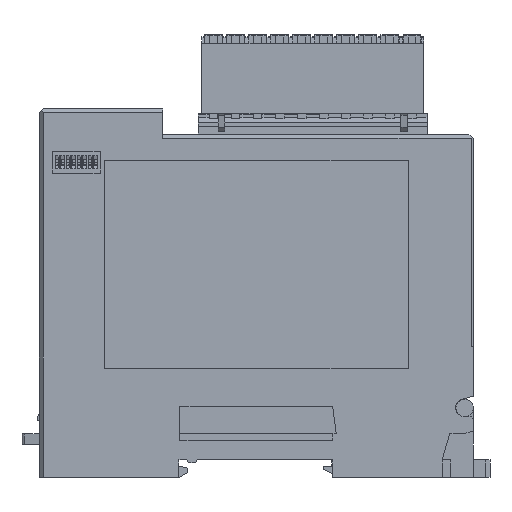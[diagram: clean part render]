
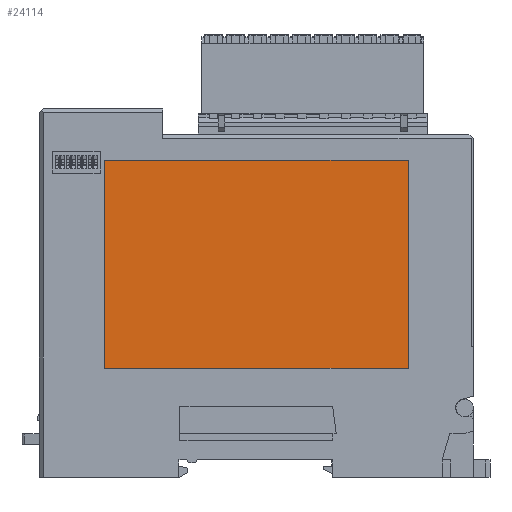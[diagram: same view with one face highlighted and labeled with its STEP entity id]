
A CAD part, left-side view. The second image highlights one B-rep face of the part: STEP entity #24114.
In plain terms, the highlighted planar face has unit normal (-1, 0, 0).
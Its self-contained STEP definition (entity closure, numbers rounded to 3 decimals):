
#6085 = CARTESIAN_POINT ( 'NONE',  ( -14.7, 35.01, -17.46 ) ) ;
#6324 = FACE_OUTER_BOUND ( 'NONE', #23507, .T. ) ;
#8159 = VERTEX_POINT ( 'NONE', #86983 ) ;
#14662 = DIRECTION ( 'NONE',  ( 0., 0., 1. ) ) ;
#22926 = LINE ( 'NONE', #68990, #65313 ) ;
#23507 = EDGE_LOOP ( 'NONE', ( #44627, #49085, #62815, #46832 ) ) ;
#24114 = ADVANCED_FACE ( 'NONE', ( #6324 ), #85437, .T. ) ;
#24693 = LINE ( 'NONE', #40224, #80029 ) ;
#26376 = LINE ( 'NONE', #50183, #56835 ) ;
#26383 = DIRECTION ( 'NONE',  ( 0., 0., -1. ) ) ;
#31632 = DIRECTION ( 'NONE',  ( 0., 0., 1. ) ) ;
#37437 = EDGE_CURVE ( 'NONE', #8159, #46899, #24693, .T. ) ;
#40224 = CARTESIAN_POINT ( 'NONE',  ( -14.7, 35.01, 30.55 ) ) ;
#40735 = DIRECTION ( 'NONE',  ( 0., 1., 0. ) ) ;
#41648 = VERTEX_POINT ( 'NONE', #69401 ) ;
#44627 = ORIENTED_EDGE ( 'NONE', *, *, #88505, .T. ) ;
#46832 = ORIENTED_EDGE ( 'NONE', *, *, #74485, .T. ) ;
#46899 = VERTEX_POINT ( 'NONE', #51103 ) ;
#49085 = ORIENTED_EDGE ( 'NONE', *, *, #90415, .T. ) ;
#49675 = LINE ( 'NONE', #66208, #61941 ) ;
#50183 = CARTESIAN_POINT ( 'NONE',  ( -14.7, 35.01, -17.46 ) ) ;
#50684 = DIRECTION ( 'NONE',  ( 0., -1., 0. ) ) ;
#51103 = CARTESIAN_POINT ( 'NONE',  ( -14.7, 35.01, 30.55 ) ) ;
#56835 = VECTOR ( 'NONE', #50684, 1000. ) ;
#58276 = VERTEX_POINT ( 'NONE', #6085 ) ;
#61941 = VECTOR ( 'NONE', #26383, 1000. ) ;
#62815 = ORIENTED_EDGE ( 'NONE', *, *, #37437, .T. ) ;
#65313 = VECTOR ( 'NONE', #14662, 1000. ) ;
#66208 = CARTESIAN_POINT ( 'NONE',  ( -14.7, 35.01, -17.46 ) ) ;
#68990 = CARTESIAN_POINT ( 'NONE',  ( -14.7, -35., -17.46 ) ) ;
#69401 = CARTESIAN_POINT ( 'NONE',  ( -14.7, -35., -17.46 ) ) ;
#69406 = DIRECTION ( 'NONE',  ( -1., 0., 0. ) ) ;
#74485 = EDGE_CURVE ( 'NONE', #46899, #58276, #49675, .T. ) ;
#80029 = VECTOR ( 'NONE', #40735, 1000. ) ;
#84250 = AXIS2_PLACEMENT_3D ( 'NONE', #85938, #69406, #31632 ) ;
#85437 = PLANE ( 'NONE',  #84250 ) ;
#85938 = CARTESIAN_POINT ( 'NONE',  ( -14.7, 0., 0. ) ) ;
#86983 = CARTESIAN_POINT ( 'NONE',  ( -14.7, -35., 30.55 ) ) ;
#88505 = EDGE_CURVE ( 'NONE', #58276, #41648, #26376, .T. ) ;
#90415 = EDGE_CURVE ( 'NONE', #41648, #8159, #22926, .T. ) ;
